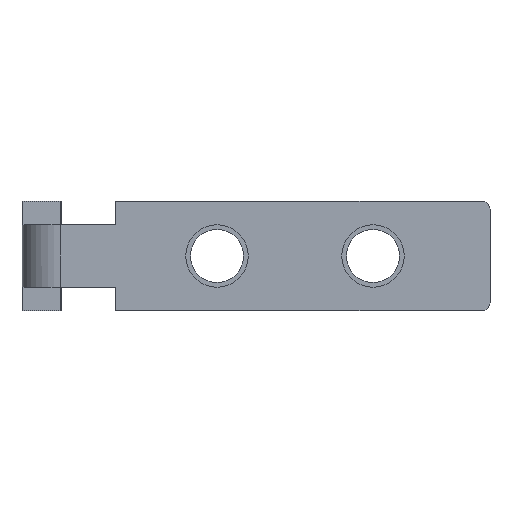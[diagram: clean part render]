
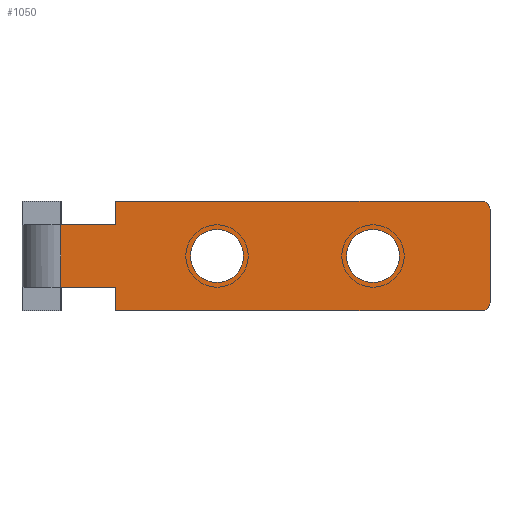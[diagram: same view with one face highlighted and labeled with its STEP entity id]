
A CAD part, front view. The second image highlights one B-rep face of the part: STEP entity #1050.
In plain terms, the highlighted planar face has unit normal (0, -1, 0).
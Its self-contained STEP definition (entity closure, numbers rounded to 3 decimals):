
#13 = CARTESIAN_POINT ( 'NONE',  ( 45., 0., 0. ) ) ;
#14 = DIRECTION ( 'NONE',  ( 0., 1., 0. ) ) ;
#15 = DIRECTION ( 'NONE',  ( 0., 0., -1. ) ) ;
#30 = CARTESIAN_POINT ( 'NONE',  ( 25., 0., 0. ) ) ;
#31 = DIRECTION ( 'NONE',  ( 0., 1., 0. ) ) ;
#32 = DIRECTION ( 'NONE',  ( 0., 0., -1. ) ) ;
#40 = CARTESIAN_POINT ( 'NONE',  ( 60., 0., -7. ) ) ;
#48 = CARTESIAN_POINT ( 'NONE',  ( 12., 0., -4. ) ) ;
#49 = DIRECTION ( 'NONE',  ( -1., 0., 0. ) ) ;
#50 = CARTESIAN_POINT ( 'NONE',  ( 0., 0., -7. ) ) ;
#51 = DIRECTION ( 'NONE',  ( 1., 0., 0. ) ) ;
#52 = CARTESIAN_POINT ( 'NONE',  ( 0., 0., 7. ) ) ;
#53 = DIRECTION ( 'NONE',  ( 1., 0., 0. ) ) ;
#54 = DIRECTION ( 'NONE',  ( 0., 0., -1. ) ) ;
#55 = CARTESIAN_POINT ( 'NONE',  ( 5., 0., 4. ) ) ;
#56 = DIRECTION ( 'NONE',  ( 1., 0., 0. ) ) ;
#57 = CARTESIAN_POINT ( 'NONE',  ( 25., 0., 0. ) ) ;
#58 = DIRECTION ( 'NONE',  ( 0., 1., 0. ) ) ;
#59 = DIRECTION ( 'NONE',  ( 0., 0., -1. ) ) ;
#60 = CARTESIAN_POINT ( 'NONE',  ( 59., 0., 6. ) ) ;
#61 = DIRECTION ( 'NONE',  ( 0., -1., 0. ) ) ;
#62 = DIRECTION ( 'NONE',  ( 0., 0., 1. ) ) ;
#63 = CARTESIAN_POINT ( 'NONE',  ( 45., 0., 0. ) ) ;
#64 = DIRECTION ( 'NONE',  ( 0., 1., 0. ) ) ;
#65 = DIRECTION ( 'NONE',  ( 0., 0., -1. ) ) ;
#68 = CARTESIAN_POINT ( 'NONE',  ( 25., 0., 0. ) ) ;
#69 = DIRECTION ( 'NONE',  ( 0., 1., 0. ) ) ;
#70 = DIRECTION ( 'NONE',  ( 0., 0., -1. ) ) ;
#73 = CARTESIAN_POINT ( 'NONE',  ( 45., 0., 0. ) ) ;
#74 = DIRECTION ( 'NONE',  ( 0., 1., 0. ) ) ;
#75 = DIRECTION ( 'NONE',  ( 0., 0., -1. ) ) ;
#198 = CARTESIAN_POINT ( 'NONE',  ( 12., 0., -7. ) ) ;
#199 = DIRECTION ( 'NONE',  ( 0., 0., -1. ) ) ;
#234 = CARTESIAN_POINT ( 'NONE',  ( 5., 0., -7. ) ) ;
#235 = DIRECTION ( 'NONE',  ( 0., 0., -1. ) ) ;
#312 = CARTESIAN_POINT ( 'NONE',  ( 0., 0., -7. ) ) ;
#350 = CARTESIAN_POINT ( 'NONE',  ( 21.6, 0., 0. ) ) ;
#409 = CARTESIAN_POINT ( 'NONE',  ( 12., 0., 7. ) ) ;
#425 = DIRECTION ( 'NONE',  ( 0., 0., -1. ) ) ;
#430 = PLANE ( 'NONE',  #1355 ) ;
#443 = DIRECTION ( 'NONE',  ( 0., -1., 0. ) ) ;
#452 = CARTESIAN_POINT ( 'NONE',  ( 12., 0., 4. ) ) ;
#453 = CARTESIAN_POINT ( 'NONE',  ( 59., 0., 7. ) ) ;
#459 = CARTESIAN_POINT ( 'NONE',  ( 60., 0., 6. ) ) ;
#460 = CARTESIAN_POINT ( 'NONE',  ( 41.6, 0., 0. ) ) ;
#506 = LINE ( 'NONE', #198, #509 ) ;
#509 = VECTOR ( 'NONE', #199, 1000. ) ;
#573 = VERTEX_POINT ( 'NONE', #453 ) ;
#578 = EDGE_LOOP ( 'NONE', ( #819, #776, #777, #778, #803, #802, #801, #799, #772, #771 ) ) ;
#601 = EDGE_LOOP ( 'NONE', ( #769, #767, #766 ) ) ;
#604 = EDGE_LOOP ( 'NONE', ( #768, #762, #763 ) ) ;
#609 = VERTEX_POINT ( 'NONE', #452 ) ;
#610 = VERTEX_POINT ( 'NONE', #409 ) ;
#611 = VERTEX_POINT ( 'NONE', #460 ) ;
#612 = VERTEX_POINT ( 'NONE', #459 ) ;
#624 = VERTEX_POINT ( 'NONE', #350 ) ;
#688 = CARTESIAN_POINT ( 'NONE',  ( 59., 0., -7. ) ) ;
#694 = CARTESIAN_POINT ( 'NONE',  ( 12., 0., -4. ) ) ;
#700 = CARTESIAN_POINT ( 'NONE',  ( 45., 0., -3.4 ) ) ;
#703 = CARTESIAN_POINT ( 'NONE',  ( 5., 0., -4. ) ) ;
#707 = CARTESIAN_POINT ( 'NONE',  ( 28.4, 0., 0. ) ) ;
#716 = CARTESIAN_POINT ( 'NONE',  ( 48.4, 0., 0. ) ) ;
#721 = CARTESIAN_POINT ( 'NONE',  ( 25., 0., -3.4 ) ) ;
#722 = CARTESIAN_POINT ( 'NONE',  ( 60., 0., -6. ) ) ;
#725 = CARTESIAN_POINT ( 'NONE',  ( 5., 0., 4. ) ) ;
#729 = CARTESIAN_POINT ( 'NONE',  ( 12., 0., -7. ) ) ;
#762 = ORIENTED_EDGE ( 'NONE', *, *, #1268, .T. ) ;
#763 = ORIENTED_EDGE ( 'NONE', *, *, #1284, .T. ) ;
#766 = ORIENTED_EDGE ( 'NONE', *, *, #1285, .T. ) ;
#767 = ORIENTED_EDGE ( 'NONE', *, *, #1262, .T. ) ;
#768 = ORIENTED_EDGE ( 'NONE', *, *, #1281, .T. ) ;
#769 = ORIENTED_EDGE ( 'NONE', *, *, #1283, .T. ) ;
#771 = ORIENTED_EDGE ( 'NONE', *, *, #1254, .T. ) ;
#772 = ORIENTED_EDGE ( 'NONE', *, *, #1280, .F. ) ;
#776 = ORIENTED_EDGE ( 'NONE', *, *, #1238, .T. ) ;
#777 = ORIENTED_EDGE ( 'NONE', *, *, #1277, .T. ) ;
#778 = ORIENTED_EDGE ( 'NONE', *, *, #1242, .T. ) ;
#799 = ORIENTED_EDGE ( 'NONE', *, *, #1336, .T. ) ;
#801 = ORIENTED_EDGE ( 'NONE', *, *, #1278, .F. ) ;
#802 = ORIENTED_EDGE ( 'NONE', *, *, #1282, .T. ) ;
#803 = ORIENTED_EDGE ( 'NONE', *, *, #1279, .F. ) ;
#819 = ORIENTED_EDGE ( 'NONE', *, *, #1276, .F. ) ;
#837 = FACE_BOUND ( 'NONE', #604, .T. ) ;
#842 = FACE_BOUND ( 'NONE', #601, .T. ) ;
#843 = FACE_OUTER_BOUND ( 'NONE', #578, .T. ) ;
#933 = LINE ( 'NONE', #1126, #936 ) ;
#936 = VECTOR ( 'NONE', #1137, 1000. ) ;
#939 = CIRCLE ( 'NONE', #1408, 1. ) ;
#960 = LINE ( 'NONE', #234, #962 ) ;
#962 = VECTOR ( 'NONE', #235, 1000. ) ;
#972 = CIRCLE ( 'NONE', #1415, 3.4 ) ;
#981 = CIRCLE ( 'NONE', #1419, 3.4 ) ;
#987 = LINE ( 'NONE', #40, #1004 ) ;
#995 = LINE ( 'NONE', #48, #998 ) ;
#997 = LINE ( 'NONE', #50, #1000 ) ;
#998 = VECTOR ( 'NONE', #49, 1000. ) ;
#999 = LINE ( 'NONE', #52, #1002 ) ;
#1000 = VECTOR ( 'NONE', #51, 1000. ) ;
#1002 = VECTOR ( 'NONE', #53, 1000. ) ;
#1003 = LINE ( 'NONE', #55, #1006 ) ;
#1004 = VECTOR ( 'NONE', #54, 1000. ) ;
#1005 = CIRCLE ( 'NONE', #1422, 3.4 ) ;
#1006 = VECTOR ( 'NONE', #56, 1000. ) ;
#1007 = CIRCLE ( 'NONE', #1423, 1. ) ;
#1008 = CIRCLE ( 'NONE', #1424, 3.4 ) ;
#1009 = CIRCLE ( 'NONE', #1425, 3.4 ) ;
#1010 = CIRCLE ( 'NONE', #1426, 3.4 ) ;
#1050 = ADVANCED_FACE ( 'NONE', ( #843, #837, #842 ), #430, .T. ) ;
#1126 = CARTESIAN_POINT ( 'NONE',  ( 12., 0., -7. ) ) ;
#1137 = DIRECTION ( 'NONE',  ( 0., 0., -1. ) ) ;
#1238 = EDGE_CURVE ( 'NONE', #1506, #1575, #933, .T. ) ;
#1242 = EDGE_CURVE ( 'NONE', #1494, #1555, #939, .T. ) ;
#1254 = EDGE_CURVE ( 'NONE', #1578, #1530, #960, .T. ) ;
#1262 = EDGE_CURVE ( 'NONE', #1549, #1502, #972, .T. ) ;
#1268 = EDGE_CURVE ( 'NONE', #1524, #1554, #981, .T. ) ;
#1276 = EDGE_CURVE ( 'NONE', #1506, #1530, #995, .T. ) ;
#1277 = EDGE_CURVE ( 'NONE', #1575, #1494, #997, .T. ) ;
#1278 = EDGE_CURVE ( 'NONE', #610, #573, #999, .T. ) ;
#1279 = EDGE_CURVE ( 'NONE', #612, #1555, #987, .T. ) ;
#1280 = EDGE_CURVE ( 'NONE', #1578, #609, #1003, .T. ) ;
#1281 = EDGE_CURVE ( 'NONE', #624, #1524, #1005, .T. ) ;
#1282 = EDGE_CURVE ( 'NONE', #612, #573, #1007, .T. ) ;
#1283 = EDGE_CURVE ( 'NONE', #611, #1549, #1008, .T. ) ;
#1284 = EDGE_CURVE ( 'NONE', #1554, #624, #1009, .T. ) ;
#1285 = EDGE_CURVE ( 'NONE', #1502, #611, #1010, .T. ) ;
#1336 = EDGE_CURVE ( 'NONE', #610, #609, #506, .T. ) ;
#1355 = AXIS2_PLACEMENT_3D ( 'NONE', #312, #443, #425 ) ;
#1408 = AXIS2_PLACEMENT_3D ( 'NONE', #1444, #1459, #1448 ) ;
#1415 = AXIS2_PLACEMENT_3D ( 'NONE', #13, #14, #15 ) ;
#1419 = AXIS2_PLACEMENT_3D ( 'NONE', #30, #31, #32 ) ;
#1422 = AXIS2_PLACEMENT_3D ( 'NONE', #57, #58, #59 ) ;
#1423 = AXIS2_PLACEMENT_3D ( 'NONE', #60, #61, #62 ) ;
#1424 = AXIS2_PLACEMENT_3D ( 'NONE', #63, #64, #65 ) ;
#1425 = AXIS2_PLACEMENT_3D ( 'NONE', #68, #69, #70 ) ;
#1426 = AXIS2_PLACEMENT_3D ( 'NONE', #73, #74, #75 ) ;
#1444 = CARTESIAN_POINT ( 'NONE',  ( 59., 0., -6. ) ) ;
#1448 = DIRECTION ( 'NONE',  ( 0., 0., -1. ) ) ;
#1459 = DIRECTION ( 'NONE',  ( 0., -1., 0. ) ) ;
#1494 = VERTEX_POINT ( 'NONE', #688 ) ;
#1502 = VERTEX_POINT ( 'NONE', #700 ) ;
#1506 = VERTEX_POINT ( 'NONE', #694 ) ;
#1524 = VERTEX_POINT ( 'NONE', #707 ) ;
#1530 = VERTEX_POINT ( 'NONE', #703 ) ;
#1549 = VERTEX_POINT ( 'NONE', #716 ) ;
#1554 = VERTEX_POINT ( 'NONE', #721 ) ;
#1555 = VERTEX_POINT ( 'NONE', #722 ) ;
#1575 = VERTEX_POINT ( 'NONE', #729 ) ;
#1578 = VERTEX_POINT ( 'NONE', #725 ) ;
